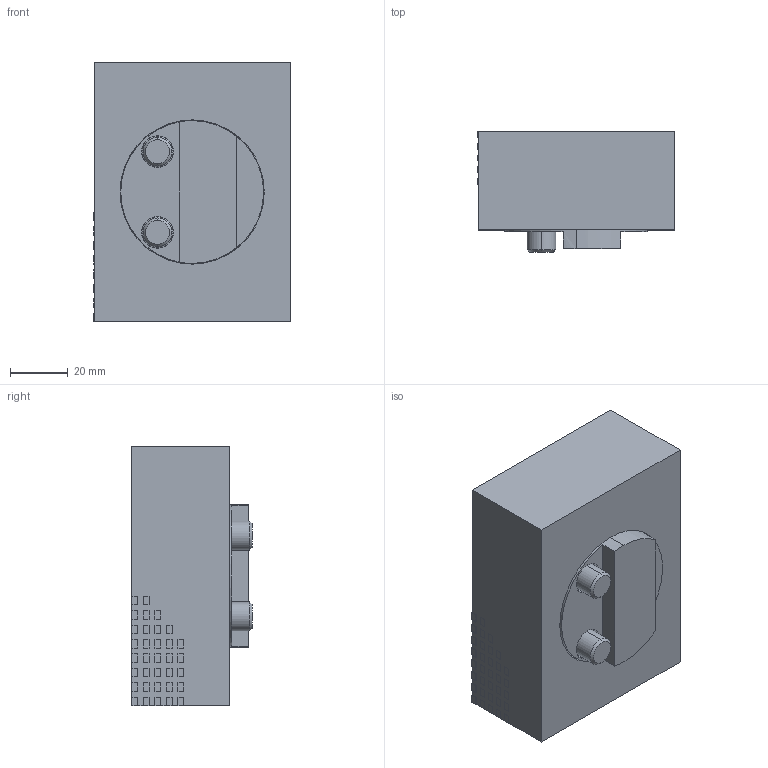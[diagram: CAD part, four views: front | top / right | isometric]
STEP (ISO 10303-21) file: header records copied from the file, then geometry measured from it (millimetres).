
FILE_DESCRIPTION (( 'STEP AP203' ), '1' );
FILE_NAME ('6921674020042.STEP', '2008-12-15T13:09:12', ( ' ' ), ( '' ), 'SwSTEP 2.0', 'SolidWorks 2008', '' );
FILE_SCHEMA (( 'CONFIG_CONTROL_DESIGN' ));
Length unit declared in the file: millimetre
Products named in the file (2): 6921674020042; Teil14^6921674020042_Standard
Assembly tree (1 placements, depth 2):
  6921674020042
    Teil14^6921674020042_Standard
Bounding box: 68.1 x 41.73 x 90 mm (x, y, z)
Volume: 211743.6 mm3; surface area: 34226 mm2
Topology: 1 solids, 1 shells, 259 faces, 644 edges, 418 vertices
Faces by surface type: plane 210, cylinder 33, torus 8, cone 8
Entity records: 7768 total; most frequent: CARTESIAN_POINT 1321, ORIENTED_EDGE 1280, DIRECTION 1272, EDGE_CURVE 640, VECTOR 534, LINE 534, VERTEX_POINT 418, AXIS2_PLACEMENT_3D 369
